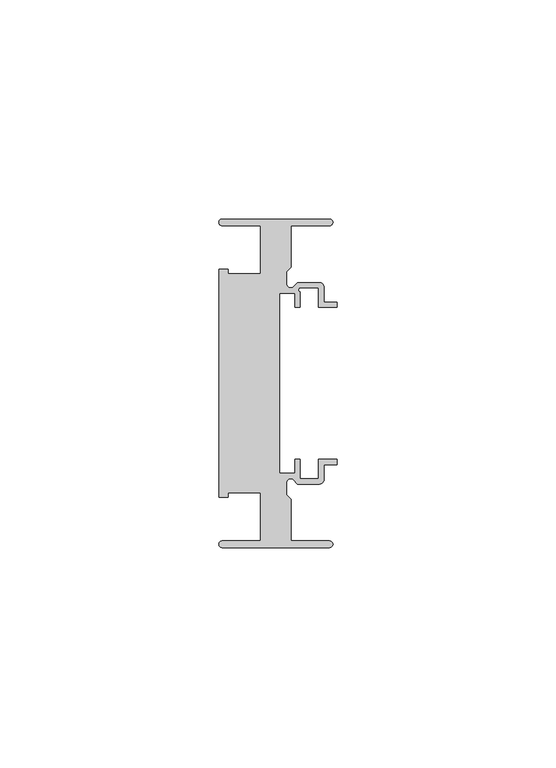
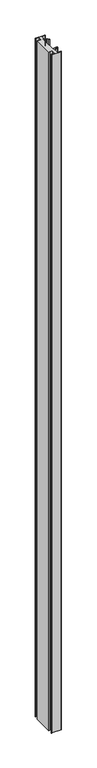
"""IFC4 building model written with IfcOpenShell, lengths in millimetres: member geometry, Прямоугольный импост : 7-AMG-2-Профиль 26Х75 Верх П."""

import ifcopenshell
import ifcopenshell.guid

model = None  # the IFC model being written
_history = None  # IfcOwnerHistory: only IFC2X3 demands one
_inside = {}  # id of a spatial element -> (the spatial element, [elements in it])
_under = {}  # id of a project, library or spatial element -> (it, [spatial elements below it])
_declared = {}  # id of a project -> (the project, [libraries it declares])
_typed = {}  # id of a type object -> (the type object, [elements of that type])
_made_of = {}  # id of a material, layer set ... -> (it, [elements and type objects made of it])


def new_model(schema):
    """Start an empty IFC model of exactly this schema.

    Asked for "IFC4X3", IfcOpenShell would pick the latest addendum, in which some entities
    have other attributes; the version numbers below select the first issue.
    IFC2X3 requires an IfcOwnerHistory on every rooted entity: one is made here for all.
    """
    global model, _history
    if schema == "IFC4X3":
        model = ifcopenshell.file(schema_version=(4, 3, 0, 0))
    else:
        model = ifcopenshell.file(schema=schema)
    _inside.clear()
    _under.clear()
    _declared.clear()
    _typed.clear()
    _made_of.clear()
    _history = None
    if model.schema == "IFC2X3":
        org = make("IfcOrganization", Name="unknown")
        user = make(
            "IfcPersonAndOrganization",
            ThePerson=make("IfcPerson", FamilyName="unknown"),
            TheOrganization=org,
        )
        app = make(
            "IfcApplication",
            ApplicationDeveloper=org,
            Version="unknown",
            ApplicationFullName="unknown",
            ApplicationIdentifier="unknown",
        )
        _history = make(
            "IfcOwnerHistory",
            OwningUser=user,
            OwningApplication=app,
            ChangeAction="ADDED",
            CreationDate=0,
        )
    return model


def make(cls, **values):
    """One entity of the class cls with the attributes given. An attribute that is None is left unset."""
    return model.create_entity(
        cls, **{name: value for name, value in values.items() if value is not None}
    )


def rooted(cls, **values):
    """An entity with a GlobalId (a new one), such as an element, a storey or a relation."""
    return make(cls, GlobalId=ifcopenshell.guid.new(), OwnerHistory=_history, **values)


def si_unit(unit_type, name, prefix=None):
    """IfcSIUnit, for example si_unit("LENGTHUNIT", "METRE", prefix="MILLI")."""
    return make("IfcSIUnit", UnitType=unit_type, Prefix=prefix, Name=name)


def assignment(units):
    """IfcUnitAssignment: the units of a project."""
    return None if units is None else make("IfcUnitAssignment", Units=units)


def point(xyz):
    """IfcCartesianPoint."""
    return None if xyz is None else make("IfcCartesianPoint", Coordinates=xyz)


def direction(xyz):
    """IfcDirection."""
    return None if xyz is None else make("IfcDirection", DirectionRatios=xyz)


def frame(location, z_axis=None, x_axis=None):
    """IfcAxis2Placement3D, a coordinate frame: its origin and axes. An axis left out is left unset."""
    return make(
        "IfcAxis2Placement3D",
        Location=point(location),
        Axis=direction(z_axis),
        RefDirection=direction(x_axis),
    )


def frame_2d(location, x_axis=None):
    """IfcAxis2Placement2D, a coordinate frame in the plane: its origin and x axis."""
    return make(
        "IfcAxis2Placement2D", Location=point(location), RefDirection=direction(x_axis)
    )


def origin():
    """The frame at (0, 0, 0) with its axes left unset."""
    return frame((0.0, 0.0, 0.0))


def place(relative_to, where):
    """IfcLocalPlacement: puts the frame where relative to a parent placement (None: the world)."""
    return make(
        "IfcLocalPlacement", PlacementRelTo=relative_to, RelativePlacement=where
    )


def context(
    kind, dimensions, precision=None, world=None, true_north=None, identifier=None
):
    """IfcGeometricRepresentationContext, for example the 3D "Model" context."""
    return make(
        "IfcGeometricRepresentationContext",
        ContextIdentifier=identifier,
        ContextType=kind,
        CoordinateSpaceDimension=dimensions,
        Precision=precision,
        WorldCoordinateSystem=world,
        TrueNorth=true_north,
    )


def project(units=None, contexts=None):
    """IfcProject with its units and contexts."""
    return rooted(
        "IfcProject",
        Name="project",
        RepresentationContexts=contexts,
        UnitsInContext=assignment(units),
    )


def spatial(cls, under=None, at=None, **own):
    """A site, building, storey or space (cls), placed at a placement, below another one or the project."""
    s = rooted(cls, ObjectPlacement=at, **own)
    if under is not None:
        _under.setdefault(under.id(), (under, []))[1].append(s)
    return s


def polyline(points):
    """IfcPolyline through the points."""
    return make("IfcPolyline", Points=[point(p) for p in points])


def circle_curve(where, radius):
    """IfcCircle in the frame where."""
    return make("IfcCircle", Position=where, Radius=radius)


def trimmed(basis, trim1, trim2, sense, master):
    """IfcTrimmedCurve: the piece of a basis curve between two trims."""
    return make(
        "IfcTrimmedCurve",
        BasisCurve=basis,
        Trim1=trim1,
        Trim2=trim2,
        SenseAgreement=sense,
        MasterRepresentation=master,
    )


def segment(curve, same_sense, transition):
    """IfcCompositeCurveSegment."""
    return make(
        "IfcCompositeCurveSegment",
        Transition=transition,
        SameSense=same_sense,
        ParentCurve=curve,
    )


def composite_curve(segments, self_intersect=None):
    """IfcCompositeCurve: segments joined end to end."""
    return make("IfcCompositeCurve", Segments=segments, SelfIntersect=self_intersect)


def outline(outer, holes=None, kind="AREA"):
    """IfcArbitraryClosedProfileDef: a profile drawn as a closed curve; with holes, ...WithVoids."""
    if holes is None:
        return make("IfcArbitraryClosedProfileDef", ProfileType=kind, OuterCurve=outer)
    return make(
        "IfcArbitraryProfileDefWithVoids",
        ProfileType=kind,
        OuterCurve=outer,
        InnerCurves=holes,
    )


def extrude(swept, where, along, depth):
    """IfcExtrudedAreaSolid: the profile swept, set in the frame where, extruded along a direction by depth."""
    return make(
        "IfcExtrudedAreaSolid",
        SweptArea=swept,
        Position=where,
        ExtrudedDirection=direction(along),
        Depth=depth,
    )


def shape(context_of_items, identifier, shape_type, items):
    """IfcShapeRepresentation: the items that make up one representation, for example the "Body"."""
    return make(
        "IfcShapeRepresentation",
        ContextOfItems=context_of_items,
        RepresentationIdentifier=identifier,
        RepresentationType=shape_type,
        Items=items,
    )


def source(mapping_origin, context_of_items, identifier, shape_type, items):
    """IfcRepresentationMap: a shape defined once, which mapped items show again and again."""
    return make(
        "IfcRepresentationMap",
        MappingOrigin=mapping_origin,
        MappedRepresentation=shape(context_of_items, identifier, shape_type, items),
    )


def transform(
    local_origin,
    x_axis=None,
    y_axis=None,
    z_axis=None,
    scale=None,
    scale2=None,
    scale3=None,
    uniform=True,
):
    """IfcCartesianTransformationOperator3D, or its non-uniform kind. x_axis, y_axis, z_axis: its Axis1, 2, 3."""
    if uniform:
        return make(
            "IfcCartesianTransformationOperator3D",
            Axis1=direction(x_axis),
            Axis2=direction(y_axis),
            LocalOrigin=point(local_origin),
            Scale=scale,
            Axis3=direction(z_axis),
        )
    return make(
        "IfcCartesianTransformationOperator3DnonUniform",
        Axis1=direction(x_axis),
        Axis2=direction(y_axis),
        LocalOrigin=point(local_origin),
        Scale=scale,
        Axis3=direction(z_axis),
        Scale2=scale2,
        Scale3=scale3,
    )


def mapped(mapping_source, mapping_target):
    """IfcMappedItem: shows the shape of a source again, moved by a transform."""
    return make(
        "IfcMappedItem", MappingSource=mapping_source, MappingTarget=mapping_target
    )


def made_of(thing, what):
    """Note that an element or type object is made of a material, layer set ...; save() writes the relation."""
    if what is not None:
        _made_of.setdefault(what.id(), (what, []))[1].append(thing)
    return thing


def element(
    cls,
    number,
    at=None,
    inside=None,
    cuts=None,
    type_object=None,
    material=None,
    context=None,
    identifier="Body",
    shape_type=None,
    held_by="IfcProductDefinitionShape",
    body=None,
    shapes=None,
    **own,
):
    """One element of the class cls, such as IfcWall. Its Tag is "e" and its number.

    at: its placement. inside: the storey or other place that contains it. cuts: it is an
    opening in that element (IfcRelVoidsElement). A single representation is given by context,
    identifier, shape_type and body (its items); several are given by shapes. held_by: the class
    of the entity that holds the representations. save() writes the other relations.
    """
    e = rooted(cls, Tag="e%d" % number, ObjectPlacement=at, **own)
    if body is not None:
        shapes = [shape(context, identifier, shape_type, body)]
    if shapes is not None:
        e.Representation = make(held_by, Representations=shapes)
    if inside is not None:
        _inside.setdefault(inside.id(), (inside, []))[1].append(e)
    if cuts is not None:
        rooted(
            "IfcRelVoidsElement", RelatingBuildingElement=cuts, RelatedOpeningElement=e
        )
    if type_object is not None:
        _typed.setdefault(type_object.id(), (type_object, []))[1].append(e)
    return made_of(e, material)


def aggregate(whole, parts):
    """IfcRelAggregates: a whole, such as a stair, and the parts it consists of."""
    return rooted("IfcRelAggregates", RelatingObject=whole, RelatedObjects=parts)


def save(model, path):
    """Write the relations noted so far, then the file.

    IfcRelAggregates (storeys below a building ...), IfcRelContainedInSpatialStructure (elements
    in a storey), IfcRelDefinesByType, IfcRelAssociatesMaterial and IfcRelDeclares: one each for
    every whole, place, type object, material and project.
    """
    for whole, parts in _under.values():
        aggregate(whole, parts)
    for where, things in _inside.values():
        rooted(
            "IfcRelContainedInSpatialStructure",
            RelatedElements=things,
            RelatingStructure=where,
        )
    for kind, things in _typed.values():
        rooted("IfcRelDefinesByType", RelatedObjects=things, RelatingType=kind)
    for what, things in _made_of.values():
        rooted("IfcRelAssociatesMaterial", RelatedObjects=things, RelatingMaterial=what)
    for by, libraries in _declared.values():
        rooted("IfcRelDeclares", RelatingContext=by, RelatedDefinitions=libraries)
    model.write(path)


def member_07044b7f(model_context):
    return source(origin(), model_context, "Body", "SweptSolid", [
        extrude(outline(composite_curve([segment(polyline([(-1.7, -37.5), (-26.25, -37.5)]), True, "CONTINUOUS"), segment(trimmed(circle_curve(frame_2d((-26.25, -36.75)), 0.75), [point((-26.25, -37.5))], [point((-26.25, -36.0))], False, "CARTESIAN"), True, "CONTINUOUS"), segment(polyline([(-26.25, -36.0), (-17.5, -36.0), (-17.5, -25.0), (-24.9359877, -25.0), (-24.9359877, -26.0), (-27.0, -26.0), (-27.0, 26.0), (-24.9359877, 26.0), (-24.9359877, 25.0), (-17.5, 25.0), (-17.5, 36.0), (-26.25, 36.0)]), True, "CONTINUOUS"), segment(trimmed(circle_curve(frame_2d((-26.25, 36.75)), 0.75), [point((-26.25, 36.0))], [point((-26.25, 37.5))], False, "CARTESIAN"), True, "CONTINUOUS"), segment(polyline([(-26.25, 37.5), (-1.7, 37.5)]), True, "CONTINUOUS"), segment(trimmed(circle_curve(frame_2d((-1.7, 36.75)), 0.75), [point((-1.7, 37.5))], [point((-1.7, 36.0))], False, "CARTESIAN"), True, "CONTINUOUS"), segment(polyline([(-1.7, 36.0), (-10.5, 36.0), (-10.5, 26.5029437), (-11.5, 25.5029437), (-11.5, 22.6727922)]), True, "CONTINUOUS"), segment(trimmed(circle_curve(frame_2d((-10.6, 22.6727922)), 0.9), [point((-11.5, 22.6727922))], [point((-9.9636039, 22.0363961))], True, "CARTESIAN"), True, "CONTINUOUS"), segment(polyline([(-9.9636039, 22.0363961), (-9.0, 23.0), (-4.0, 23.0)]), True, "CONTINUOUS"), segment(trimmed(circle_curve(frame_2d((-4.0, 22.0)), 1.0), [point((-4.0, 23.0))], [point((-3.0, 22.0))], False, "CARTESIAN"), True, "CONTINUOUS"), segment(polyline([(-3.0, 22.0), (-3.0, 18.55), (0.0, 18.55), (0.0, 17.35), (-4.2, 17.35), (-4.2, 21.8), (-8.5029437, 21.8)]), True, "CONTINUOUS"), segment(trimmed(circle_curve(frame_2d((-8.3343131, 21.3314262)), 0.4979937), [point((-8.5029437, 21.8))], [point((-8.45, 20.8470563))], True, "CARTESIAN"), True, "CONTINUOUS"), segment(polyline([(-8.45, 20.8470563), (-8.45, 17.35), (-9.65, 17.35), (-9.65, 20.55), (-13.15, 20.55), (-13.15, -20.55), (-9.65, -20.55), (-9.65, -17.35), (-8.45, -17.35), (-8.45, -21.8), (-4.2, -21.8), (-4.2, -17.35), (0.0, -17.35), (0.0, -18.55), (-3.0, -18.55), (-3.0, -22.0)]), True, "CONTINUOUS"), segment(trimmed(circle_curve(frame_2d((-4.0, -22.0)), 1.0), [point((-3.0, -22.0))], [point((-4.0, -23.0))], False, "CARTESIAN"), True, "CONTINUOUS"), segment(polyline([(-4.0, -23.0), (-9.0, -23.0), (-9.9636039, -22.0363961)]), True, "CONTINUOUS"), segment(trimmed(circle_curve(frame_2d((-10.6, -22.6727922)), 0.9), [point((-9.9636039, -22.0363961))], [point((-11.5, -22.6727922))], True, "CARTESIAN"), True, "CONTINUOUS"), segment(polyline([(-11.5, -22.6727922), (-11.5, -25.5029437), (-10.5, -26.5029437), (-10.5, -36.0), (-1.7, -36.0)]), True, "CONTINUOUS"), segment(trimmed(circle_curve(frame_2d((-1.7, -36.75)), 0.75), [point((-1.7, -36.0))], [point((-1.7, -37.5))], False, "CARTESIAN"), True, "CONTINUOUS")], self_intersect=False)), frame((0.0, 0.0, -1877.1748553), z_axis=(0.0, 0.0, 1.0), x_axis=(1.0, 0.0, 0.0)), (0.0, 0.0, 1.0), 1877.1748553),
    ])


if __name__ == "__main__":
    model = new_model("IFC4")
    model_context = context("Model", 3, world=origin())
    ifc_project = project(units=[si_unit("LENGTHUNIT", "METRE", prefix="MILLI")], contexts=[model_context])
    site = spatial("IfcSite", under=ifc_project)
    building = spatial("IfcBuilding", under=site)
    placement = place(None, origin())
    member_shape = member_07044b7f(model_context)
    element("IfcMember", 1, ObjectType="Прямоугольный импост : 7-AMG-2-Профиль 26Х75 Верх П", at=placement, inside=building, context=model_context, shape_type="MappedRepresentation", body=[
        mapped(member_shape, transform((0.0, 0.0, 0.0), x_axis=(1.0, 0.0, 0.0), y_axis=(0.0, 1.0, 0.0), z_axis=(0.0, 0.0, 1.0))),
    ])
    save(model, "model.ifc")
